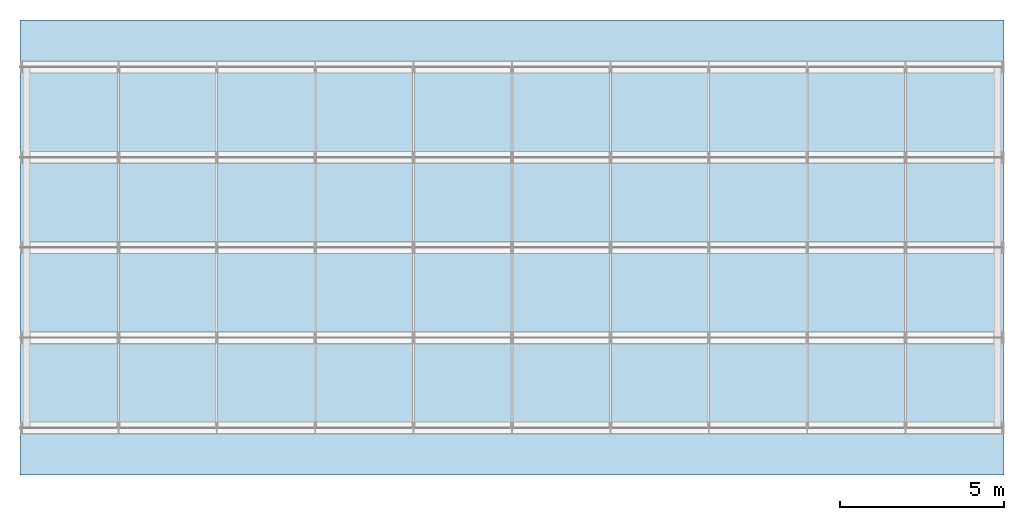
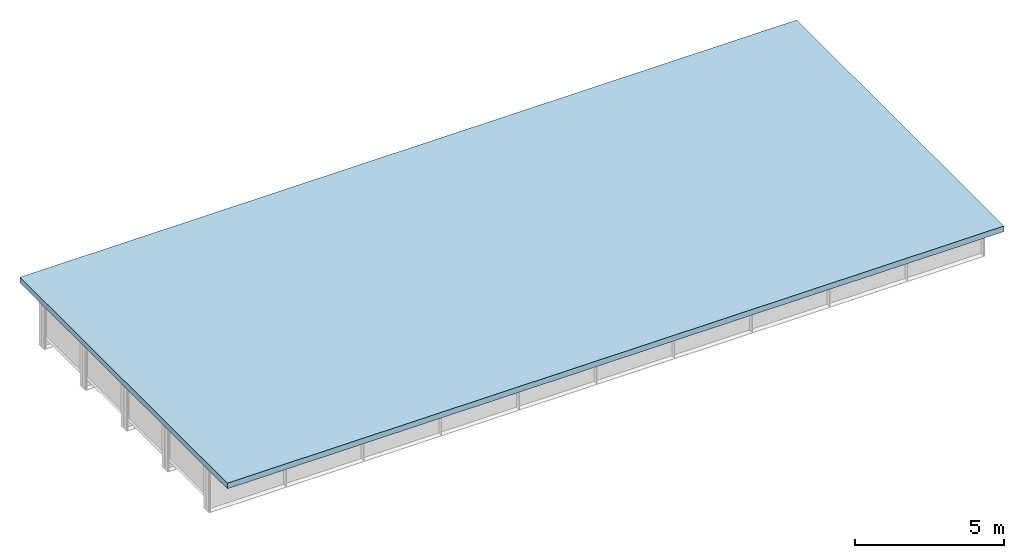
# One storey, part 10 of 17: 1 slab.
"""IFC4 building model written with IfcOpenShell, lengths in metres."""

from ifc_helpers import new_model, si_unit, frame, origin, origin_with_axes, place, context, subcontext, project, spatial, polyline, outline, extrude, element, save


model = new_model("IFC4")

# Units and contexts
model_context = context("Model", 3, precision=1e-05, world=origin())
body_context = subcontext(model_context, "Body", "Model", "MODEL_VIEW")
ifc_project = project(units=[si_unit("LENGTHUNIT", "METRE"), si_unit("AREAUNIT", "SQUARE_METRE"), si_unit("VOLUMEUNIT", "CUBIC_METRE"), si_unit("PLANEANGLEUNIT", "RADIAN")], contexts=[model_context])

# Site, building, storey
site_placement = place(None, origin_with_axes())
site = spatial("IfcSite", under=ifc_project, at=site_placement, Name="Default Site")
building_placement = place(site_placement, origin_with_axes())
building = spatial("IfcBuilding", under=site, at=building_placement, Name="Bridge Structure")
storey_placement = place(building_placement, origin_with_axes())
storey = spatial("IfcBuildingStorey", under=building, at=storey_placement, Name="Superstructure")

# Slab
slab_placement = place(storey_placement, frame((0.0, 0.0, 0.873), z_axis=(0.0, 0.0, 1.0), x_axis=(1.0, 0.0, 0.0)))
element("IfcSlab", 1, at=slab_placement, inside=storey, Name="Deck Slab", context=body_context, shape_type="SweptSolid", body=[
    extrude(outline(polyline([(0.0, -6.9375), (30.0, -6.9375), (30.0, 6.9375), (0.0, 6.9375), (0.0, -6.9375)])), origin_with_axes(), (0.0, 0.0, 1.0), 0.23),
])

save(model, "model.ifc")
